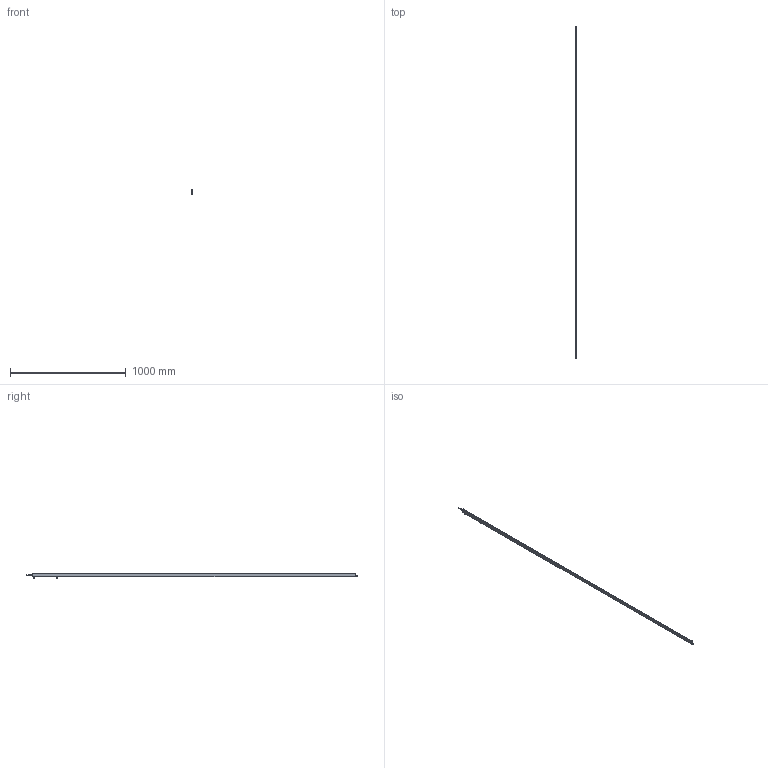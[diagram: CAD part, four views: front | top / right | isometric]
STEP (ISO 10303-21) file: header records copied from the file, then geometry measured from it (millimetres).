
FILE_DESCRIPTION (( 'STEP AP214' ), '1' );
FILE_NAME ('ILG-B-K2-2790mm.STEP', '2017-07-10T13:12:03', ( '' ), ( '' ), 'SwSTEP 2.0', 'SolidWorks 2016', '' );
FILE_SCHEMA (( 'AUTOMOTIVE_DESIGN' ));
Length unit declared in the file: millimetre
Products named in the file (1): ILG-B-K2-2790mm
Bounding box: 9 x 2863.5 x 46.21 mm (x, y, z)
Surface area: 461623.2 mm2 (no closed solid volume)
Topology: 0 solids, 15 shells, 702 faces, 1822 edges, 1157 vertices
Faces by surface type: cylinder 287, plane 266, cone 99, bspline 32, torus 18
Entity records: 31388 total; most frequent: CARTESIAN_POINT 6631, ORIENTED_EDGE 3597, DIRECTION 3488, EDGE_CURVE 1806, AXIS2_PLACEMENT_3D 1342, VERTEX_POINT 1157, VECTOR 804, LINE 804
